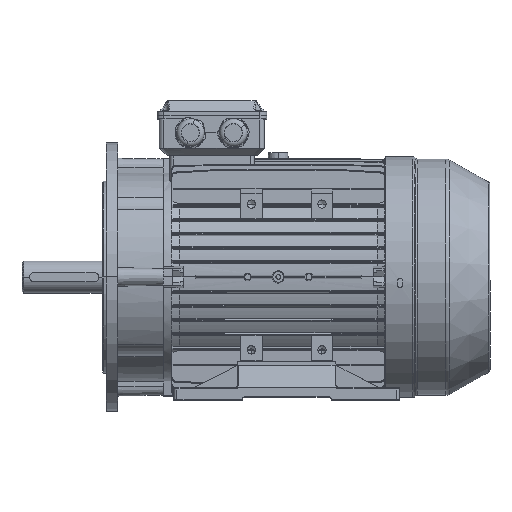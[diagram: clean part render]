
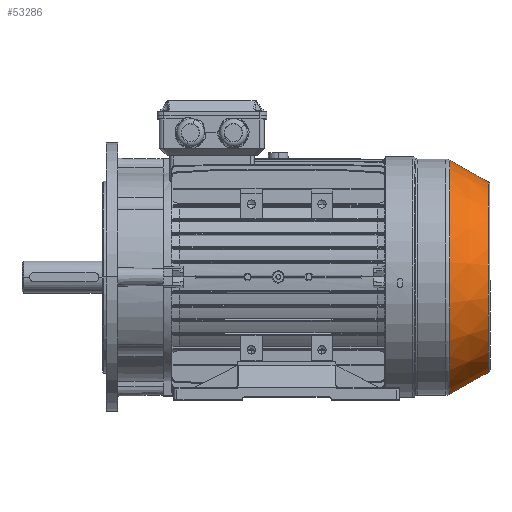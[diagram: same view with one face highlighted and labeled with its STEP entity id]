
A CAD part, top view. The second image highlights one B-rep face of the part: STEP entity #53286.
In plain terms, the highlighted conical face has half-angle 29.472 degrees and reference radius 154 mm.
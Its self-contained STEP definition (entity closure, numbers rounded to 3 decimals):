
#45229 = VERTEX_POINT ( 'NONE', #157437 ) ;
#46553 = VERTEX_POINT ( 'NONE', #163993 ) ;
#47731 = VERTEX_POINT ( 'NONE', #169410 ) ;
#47757 = VERTEX_POINT ( 'NONE', #169528 ) ;
#49028 = EDGE_CURVE ( 'NONE', #47731, #46553, #170399, .T. ) ;
#49059 = EDGE_CURVE ( 'NONE', #47757, #45229, #170438, .T. ) ;
#51922 = EDGE_LOOP ( 'NONE', ( #52463, #53314, #53311, #53402 ) ) ;
#52260 = EDGE_CURVE ( 'NONE', #47757, #47731, #172774, .T. ) ;
#52463 = ORIENTED_EDGE ( 'NONE', *, *, #49028, .F. ) ;
#53286 = ADVANCED_FACE ( 'NONE', ( #173755 ), #173737, .T. ) ;
#53311 = ORIENTED_EDGE ( 'NONE', *, *, #49059, .T. ) ;
#53314 = ORIENTED_EDGE ( 'NONE', *, *, #52260, .F. ) ;
#53402 = ORIENTED_EDGE ( 'NONE', *, *, #53596, .T. ) ;
#53596 = EDGE_CURVE ( 'NONE', #45229, #46553, #173947, .T. ) ;
#157437 = CARTESIAN_POINT ( 'NONE',  ( -83.29, 152.706, 0. ) ) ;
#163993 = CARTESIAN_POINT ( 'NONE',  ( -83.29, -152.706, 0. ) ) ;
#169410 = CARTESIAN_POINT ( 'NONE',  ( -133.46, -124.353, 0. ) ) ;
#169528 = CARTESIAN_POINT ( 'NONE',  ( -133.46, 124.353, 0. ) ) ;
#170398 = CARTESIAN_POINT ( 'NONE',  ( -81., -154., 0. ) ) ;
#170399 = LINE ( 'NONE', #170398, #170437 ) ;
#170419 = DIRECTION ( 'NONE',  ( 0.871, 0.492, 0. ) ) ;
#170420 = VECTOR ( 'NONE', #170419, 1000. ) ;
#170429 = CARTESIAN_POINT ( 'NONE',  ( -81., 154., 0. ) ) ;
#170436 = DIRECTION ( 'NONE',  ( 0.871, -0.492, 0. ) ) ;
#170437 = VECTOR ( 'NONE', #170436, 1000. ) ;
#170438 = LINE ( 'NONE', #170429, #170420 ) ;
#172769 = DIRECTION ( 'NONE',  ( 0., -1., 0. ) ) ;
#172770 = DIRECTION ( 'NONE',  ( -1., 0., 0. ) ) ;
#172771 = CARTESIAN_POINT ( 'NONE',  ( -133.46, 0., 0. ) ) ;
#172773 = AXIS2_PLACEMENT_3D ( 'NONE', #172771, #172770, #172769 ) ;
#172774 = CIRCLE ( 'NONE', #172773, 124.353 ) ;
#173705 = AXIS2_PLACEMENT_3D ( 'NONE', #173744, #173759, #173741 ) ;
#173737 = CONICAL_SURFACE ( 'NONE', #173705, 154., 0.514 ) ;
#173741 = DIRECTION ( 'NONE',  ( 0., 1., 0. ) ) ;
#173744 = CARTESIAN_POINT ( 'NONE',  ( -81., 0., 0. ) ) ;
#173755 = FACE_OUTER_BOUND ( 'NONE', #51922, .T. ) ;
#173759 = DIRECTION ( 'NONE',  ( 1., 0., 0. ) ) ;
#173947 = CIRCLE ( 'NONE', #173997, 152.706 ) ;
#173992 = DIRECTION ( 'NONE',  ( 0., -1., 0. ) ) ;
#173993 = DIRECTION ( 'NONE',  ( -1., 0., 0. ) ) ;
#173994 = CARTESIAN_POINT ( 'NONE',  ( -83.29, 0., 0. ) ) ;
#173997 = AXIS2_PLACEMENT_3D ( 'NONE', #173994, #173993, #173992 ) ;
